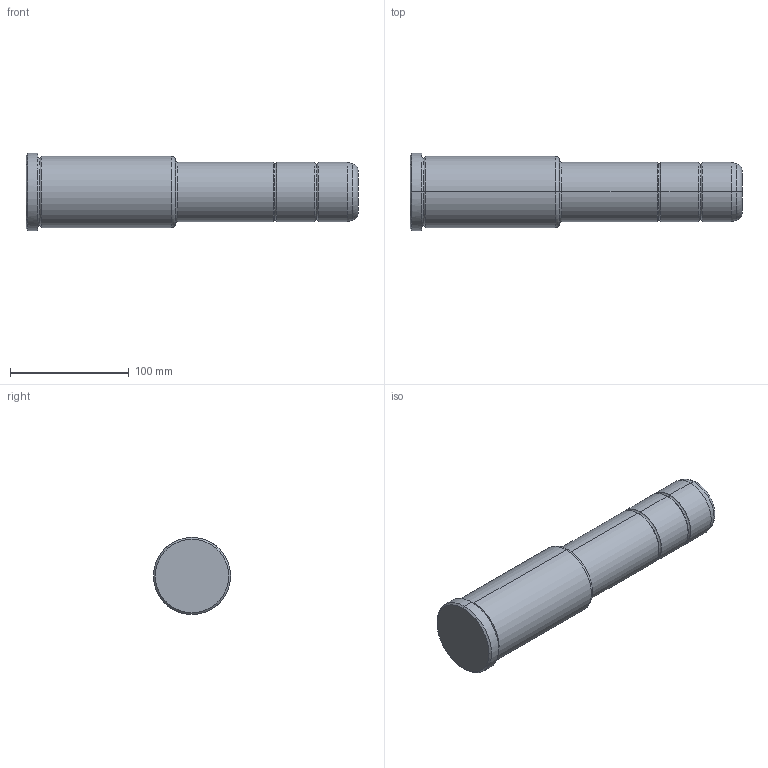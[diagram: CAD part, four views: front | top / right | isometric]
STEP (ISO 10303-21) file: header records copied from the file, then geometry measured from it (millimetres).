
FILE_DESCRIPTION(('CATIA V5 STEP Exchange'),'2;1');
FILE_NAME('C:\Users\Utente\Desktop\IO LAVORO\3D X SITO CF\X SITO\PLASTICA\351\351-50X126X280.stp','2021-11-03T19:42:11+00:00',('none'),('none'),'CATIA Version 5 Release 20 GA (IN-10)','CATIA V5 STEP AP203','none');
FILE_SCHEMA(('CONFIG_CONTROL_DESIGN'));
Length unit declared in the file: millimetre
Products named in the file (1): 351-50X126X280
Bounding box: 280 x 65 x 65 mm (x, y, z)
Volume: 659157.2 mm3; surface area: 54364.6 mm2
Topology: 1 solids, 1 shells, 35 faces, 98 edges, 66 vertices
Faces by surface type: torus 18, cylinder 10, cone 4, plane 3
Entity records: 1198 total; most frequent: CARTESIAN_POINT 256, ORIENTED_EDGE 196, DIRECTION 164, AXIS2_PLACEMENT_3D 116, EDGE_CURVE 98, CIRCLE 80, VERTEX_POINT 66, EDGE_LOOP 36
